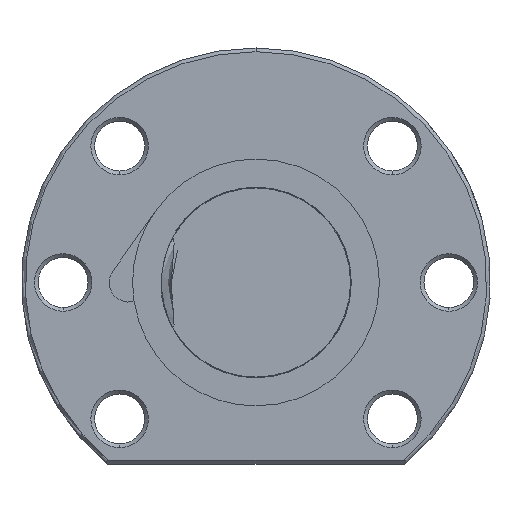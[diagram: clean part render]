
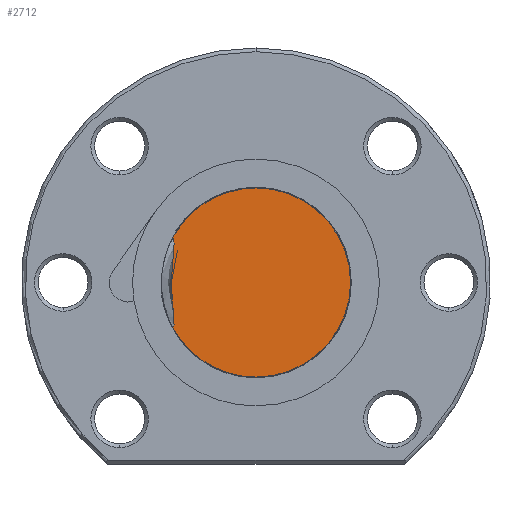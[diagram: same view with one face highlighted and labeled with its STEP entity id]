
A CAD part, left-side view. The second image highlights one B-rep face of the part: STEP entity #2712.
In plain terms, the highlighted planar face has unit normal (-1, 0, 0).
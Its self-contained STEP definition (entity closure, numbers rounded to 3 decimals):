
#2697 = ORIENTED_EDGE ( 'NONE', *, *, #23367, .F. ) ;
#2709 = EDGE_LOOP ( 'NONE', ( #2697, #2761, #2760, #2801 ) ) ;
#2712 = ADVANCED_FACE ( 'NONE', ( #22724 ), #22723, .F. ) ;
#2760 = ORIENTED_EDGE ( 'NONE', *, *, #23360, .F. ) ;
#2761 = ORIENTED_EDGE ( 'NONE', *, *, #2782, .T. ) ;
#2782 = EDGE_CURVE ( 'NONE', #23368, #23348, #24191, .T. ) ;
#2801 = ORIENTED_EDGE ( 'NONE', *, *, #23301, .F. ) ;
#9073 = DIRECTION ( 'NONE',  ( 0., 1., 0. ) ) ;
#9074 = DIRECTION ( 'NONE',  ( 1., 0., 0. ) ) ;
#9075 = CARTESIAN_POINT ( 'NONE',  ( -220., 0., 0. ) ) ;
#9076 = AXIS2_PLACEMENT_3D ( 'NONE', #9075, #9074, #9073 ) ;
#9077 = CIRCLE ( 'NONE', #9076, 12.5 ) ;
#9164 = DIRECTION ( 'NONE',  ( 0., 1., 0. ) ) ;
#9165 = DIRECTION ( 'NONE',  ( 1., 0., 0. ) ) ;
#9167 = CARTESIAN_POINT ( 'NONE',  ( -220., 0., 0. ) ) ;
#9168 = AXIS2_PLACEMENT_3D ( 'NONE', #9167, #9165, #9164 ) ;
#9170 = CIRCLE ( 'NONE', #9168, 12.5 ) ;
#9178 = CARTESIAN_POINT ( 'NONE',  ( -220., 0., -12.5 ) ) ;
#9232 = CARTESIAN_POINT ( 'NONE',  ( -220., 0., 12.5 ) ) ;
#9235 = CARTESIAN_POINT ( 'NONE',  ( -220., 10.939, 6.048 ) ) ;
#9236 = DIRECTION ( 'NONE',  ( 0., 1., 0. ) ) ;
#9238 = DIRECTION ( 'NONE',  ( 1., 0., 0. ) ) ;
#9240 = AXIS2_PLACEMENT_3D ( 'NONE', #9255, #9238, #9236 ) ;
#9242 = CIRCLE ( 'NONE', #9240, 12.5 ) ;
#9255 = CARTESIAN_POINT ( 'NONE',  ( -220., 0., 0. ) ) ;
#9655 = CARTESIAN_POINT ( 'NONE',  ( -220., 10.939, -6.048 ) ) ;
#22719 = DIRECTION ( 'NONE',  ( 0., 0., -1. ) ) ;
#22720 = DIRECTION ( 'NONE',  ( 1., 0., 0. ) ) ;
#22721 = CARTESIAN_POINT ( 'NONE',  ( -220., 0., 0. ) ) ;
#22722 = AXIS2_PLACEMENT_3D ( 'NONE', #22721, #22720, #22719 ) ;
#22723 = PLANE ( 'NONE',  #22722 ) ;
#22724 = FACE_OUTER_BOUND ( 'NONE', #2709, .T. ) ;
#23301 = EDGE_CURVE ( 'NONE', #23369, #23358, #9077, .T. ) ;
#23348 = VERTEX_POINT ( 'NONE', #9655 ) ;
#23358 = VERTEX_POINT ( 'NONE', #9178 ) ;
#23360 = EDGE_CURVE ( 'NONE', #23358, #23348, #9170, .T. ) ;
#23367 = EDGE_CURVE ( 'NONE', #23368, #23369, #9242, .T. ) ;
#23368 = VERTEX_POINT ( 'NONE', #9235 ) ;
#23369 = VERTEX_POINT ( 'NONE', #9232 ) ;
#24175 = CARTESIAN_POINT ( 'NONE',  ( -220., 10.85, 4.792 ) ) ;
#24176 = CARTESIAN_POINT ( 'NONE',  ( -220., 10.831, 5.044 ) ) ;
#24177 = CARTESIAN_POINT ( 'NONE',  ( -220., 10.83, 5.425 ) ) ;
#24178 = CARTESIAN_POINT ( 'NONE',  ( -220., 10.834, 5.553 ) ) ;
#24179 = CARTESIAN_POINT ( 'NONE',  ( -220., 10.864, 5.805 ) ) ;
#24180 = CARTESIAN_POINT ( 'NONE',  ( -220., 10.888, 5.931 ) ) ;
#24181 = CARTESIAN_POINT ( 'NONE',  ( -220., 10.939, 6.048 ) ) ;
#24191 = B_SPLINE_CURVE_WITH_KNOTS ( 'NONE', 3,
 ( #24181, #24180, #24179, #24178, #24177, #24176, #24175, #24294, #24293, #24292, #24291, #24290, #24289, #24288, #24287, #24286, #24285, #24284, #24283, #24282, #24281, #24280, #24279, #24278, #24277, #24276 ),
 .UNSPECIFIED., .F., .F.,
 ( 4, 2, 2, 2, 2, 2, 2, 2, 2, 2, 2, 2, 4 ),
 ( 0.002, 0.003, 0.003, 0.004, 0.005, 0.007, 0.008, 0.01, 0.011, 0.013, 0.014, 0.014, 0.014 ),
 .UNSPECIFIED. ) ;
#24276 = CARTESIAN_POINT ( 'NONE',  ( -220., 10.939, -6.048 ) ) ;
#24277 = CARTESIAN_POINT ( 'NONE',  ( -220., 10.888, -5.931 ) ) ;
#24278 = CARTESIAN_POINT ( 'NONE',  ( -220., 10.864, -5.804 ) ) ;
#24279 = CARTESIAN_POINT ( 'NONE',  ( -220., 10.834, -5.553 ) ) ;
#24280 = CARTESIAN_POINT ( 'NONE',  ( -220., 10.829, -5.426 ) ) ;
#24281 = CARTESIAN_POINT ( 'NONE',  ( -220., 10.83, -5.044 ) ) ;
#24282 = CARTESIAN_POINT ( 'NONE',  ( -220., 10.849, -4.792 ) ) ;
#24283 = CARTESIAN_POINT ( 'NONE',  ( -220., 10.918, -4.035 ) ) ;
#24284 = CARTESIAN_POINT ( 'NONE',  ( -220., 10.981, -3.532 ) ) ;
#24285 = CARTESIAN_POINT ( 'NONE',  ( -220., 11.088, -2.524 ) ) ;
#24286 = CARTESIAN_POINT ( 'NONE',  ( -220., 11.134, -2.019 ) ) ;
#24287 = CARTESIAN_POINT ( 'NONE',  ( -220., 11.196, -1.008 ) ) ;
#24288 = CARTESIAN_POINT ( 'NONE',  ( -220., 11.212, -0.501 ) ) ;
#24289 = CARTESIAN_POINT ( 'NONE',  ( -220., 11.211, 0.51 ) ) ;
#24290 = CARTESIAN_POINT ( 'NONE',  ( -220., 11.195, 1.014 ) ) ;
#24291 = CARTESIAN_POINT ( 'NONE',  ( -220., 11.133, 2.023 ) ) ;
#24292 = CARTESIAN_POINT ( 'NONE',  ( -220., 11.088, 2.527 ) ) ;
#24293 = CARTESIAN_POINT ( 'NONE',  ( -220., 10.982, 3.533 ) ) ;
#24294 = CARTESIAN_POINT ( 'NONE',  ( -220., 10.919, 4.036 ) ) ;
